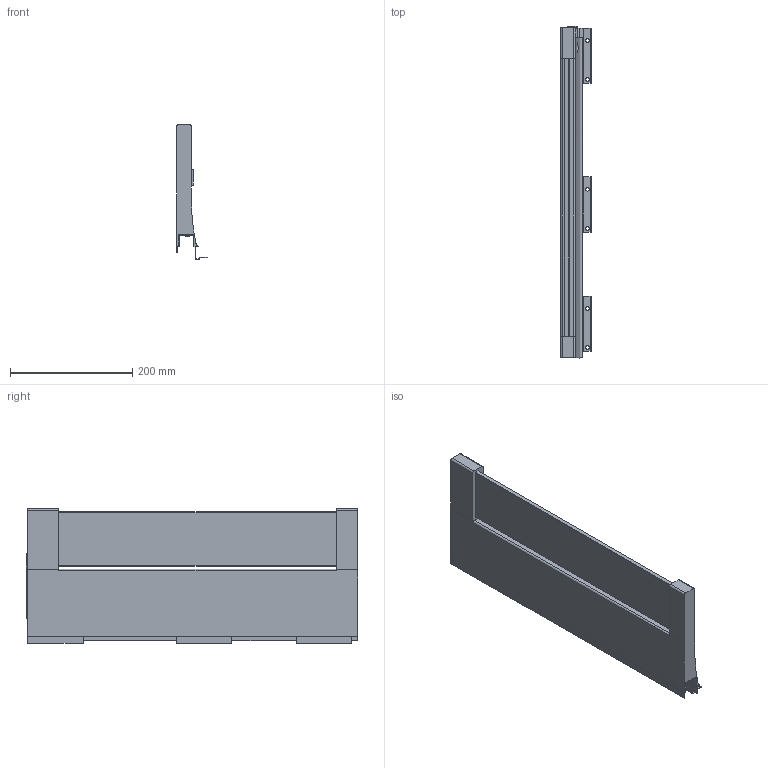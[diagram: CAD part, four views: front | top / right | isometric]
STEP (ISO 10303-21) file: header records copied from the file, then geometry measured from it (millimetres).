
FILE_DESCRIPTION (( 'STEP AP214' ), '1' );
FILE_NAME ('_XP Agantis Dekorseite H127 NL550 LI Top Glashalter.step', '2010-07-08T06:29:32', ( 'grass' ), ( '' ), 'SwSTEP 2.0', 'SolidWorks 2010', '' );
FILE_SCHEMA (( 'AUTOMOTIVE_DESIGN' ));
Length unit declared in the file: millimetre
Products named in the file (1): _XP Agantis Dekorseite H127 NL550 LI  Top Glashalter
Bounding box: 50.11 x 542.6 x 220.7 mm (x, y, z)
Volume: 1702146.5 mm3; surface area: 328595.2 mm2
Topology: 1 solids, 1 shells, 178 faces, 518 edges, 339 vertices
Faces by surface type: plane 145, cylinder 33
Entity records: 5953 total; most frequent: CARTESIAN_POINT 1123, ORIENTED_EDGE 1036, DIRECTION 940, EDGE_CURVE 518, LINE 450, VECTOR 450, VERTEX_POINT 339, AXIS2_PLACEMENT_3D 245
